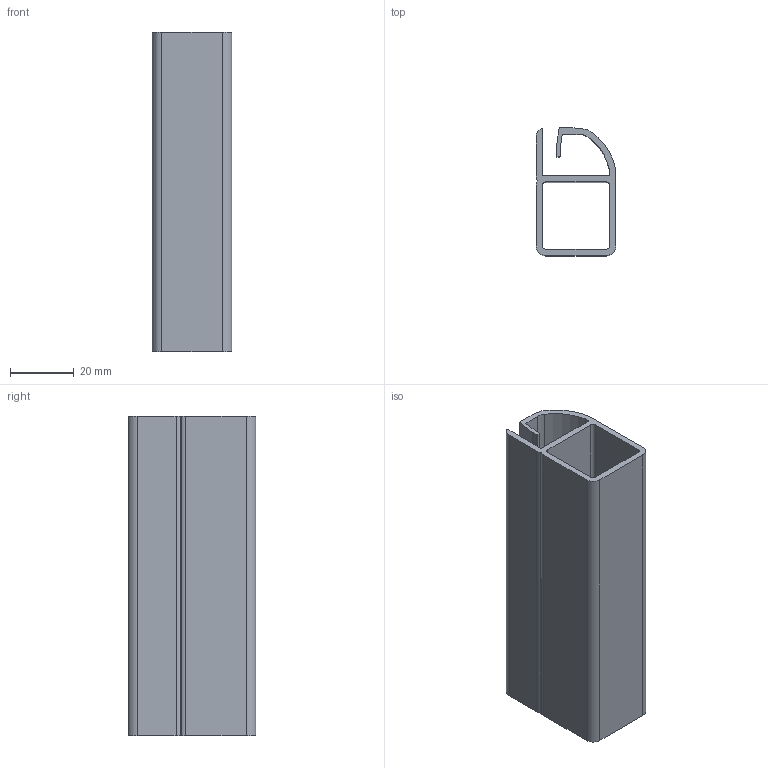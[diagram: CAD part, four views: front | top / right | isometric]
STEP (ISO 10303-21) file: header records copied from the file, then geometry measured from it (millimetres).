
FILE_DESCRIPTION (( 'STEP AP203' ), '1' );
FILE_NAME ('013.025.002.STEP', '2020-07-22T08:28:58', ( '' ), ( '' ), 'SwSTEP 2.0', 'SolidWorks 2018', '' );
FILE_SCHEMA (( 'CONFIG_CONTROL_DESIGN' ));
Length unit declared in the file: millimetre
Products named in the file (1): 013.025.002
Bounding box: 25 x 40 x 100 mm (x, y, z)
Volume: 26506.8 mm3; surface area: 27829.8 mm2
Topology: 1 solids, 1 shells, 39 faces, 111 edges, 74 vertices
Faces by surface type: plane 20, cylinder 17, bspline 2
Entity records: 1372 total; most frequent: CARTESIAN_POINT 251, ORIENTED_EDGE 222, DIRECTION 217, EDGE_CURVE 111, VERTEX_POINT 74, LINE 73, VECTOR 73, AXIS2_PLACEMENT_3D 72
